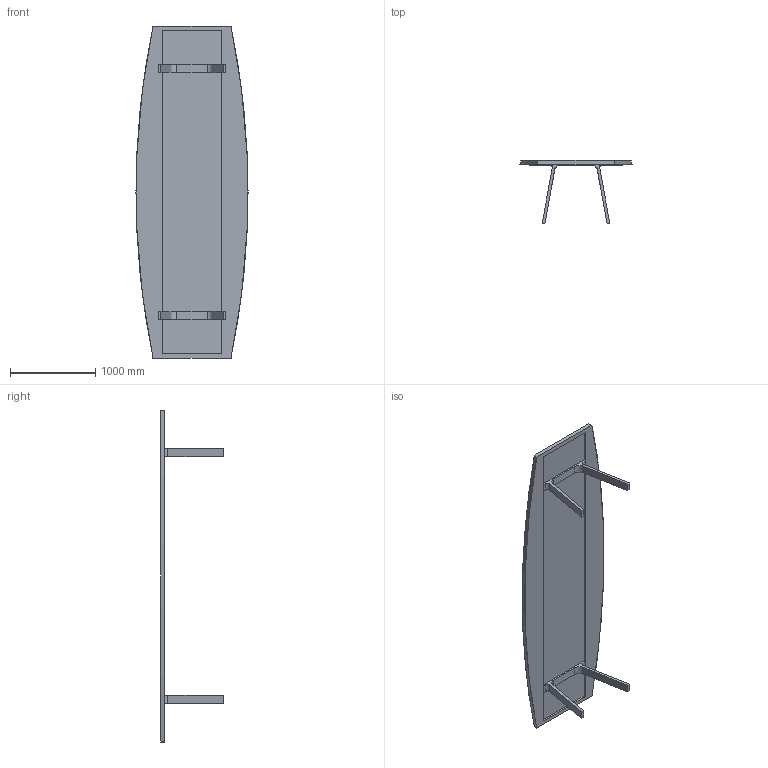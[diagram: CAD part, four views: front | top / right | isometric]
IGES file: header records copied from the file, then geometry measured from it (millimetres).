
Start section: SolidWorks IGES file using analytic representation for surfaces
Global section: file name: G:\Product Info\Doble\3D\solidworks\Doble ellips 390x90-130.IGS; native system: SolidWorks 2008; preprocessor: SolidWorks 2008; author: remko; date: 080826.135812; units: millimetre
Bounding box: 1316.73 x 740 x 3900 mm (x, y, z)
Surface area: 10718040.7 mm2 (no closed solid volume)
Topology: 0 solids, 0 shells, 51 faces, 400 edges, 400 vertices
Faces by surface type: bspline 39, revolution 12
